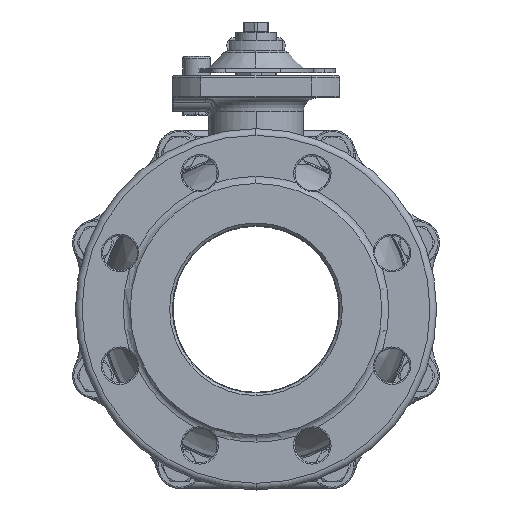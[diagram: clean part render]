
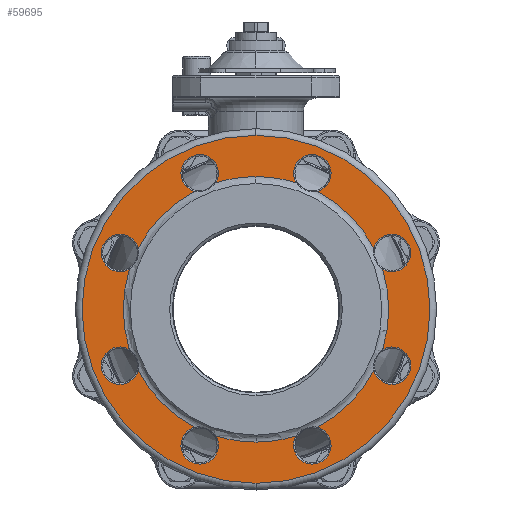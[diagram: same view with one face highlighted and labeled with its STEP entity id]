
A CAD part, left-side view. The second image highlights one B-rep face of the part: STEP entity #59695.
In plain terms, the highlighted planar face has unit normal (-1, 0, 0).
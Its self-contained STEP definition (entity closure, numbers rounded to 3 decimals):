
#57=CARTESIAN_POINT('',(-122.,0.,0.));
#58=DIRECTION('',(1.,0.,0.));
#59=DIRECTION('',(0.,0.953,-0.303));
#60=AXIS2_PLACEMENT_3D('',#57,#58,#59);
#62=CARTESIAN_POINT('',(-122.,0.,0.));
#63=DIRECTION('',(1.,0.,0.));
#64=DIRECTION('',(0.,0.46,-0.888));
#65=AXIS2_PLACEMENT_3D('',#62,#63,#64);
#67=CARTESIAN_POINT('',(-122.,0.,0.));
#68=DIRECTION('',(1.,0.,0.));
#69=DIRECTION('',(0.,0.,-1.));
#70=AXIS2_PLACEMENT_3D('',#67,#68,#69);
#72=CARTESIAN_POINT('',(-122.,0.,0.));
#73=DIRECTION('',(-1.,0.,0.));
#74=DIRECTION('',(0.,0.,-1.));
#75=AXIS2_PLACEMENT_3D('',#72,#73,#74);
#77=CARTESIAN_POINT('',(-122.,0.,0.));
#78=DIRECTION('',(-1.,0.,0.));
#79=DIRECTION('',(0.,-0.46,-0.888));
#80=AXIS2_PLACEMENT_3D('',#77,#78,#79);
#82=CARTESIAN_POINT('',(-122.,0.,0.));
#83=DIRECTION('',(-1.,0.,0.));
#84=DIRECTION('',(0.,-0.953,-0.303));
#85=AXIS2_PLACEMENT_3D('',#82,#83,#84);
#87=CARTESIAN_POINT('',(-122.,0.,0.));
#88=DIRECTION('',(-1.,0.,0.));
#89=DIRECTION('',(0.,-0.888,0.46));
#90=AXIS2_PLACEMENT_3D('',#87,#88,#89);
#92=CARTESIAN_POINT('',(-122.,0.,0.));
#93=DIRECTION('',(-1.,0.,0.));
#94=DIRECTION('',(0.,-0.303,0.953));
#95=AXIS2_PLACEMENT_3D('',#92,#93,#94);
#97=CARTESIAN_POINT('',(-122.,0.,0.));
#98=DIRECTION('',(1.,0.,0.));
#99=DIRECTION('',(0.,0.303,0.953));
#100=AXIS2_PLACEMENT_3D('',#97,#98,#99);
#102=CARTESIAN_POINT('',(-122.,0.,0.));
#103=DIRECTION('',(1.,0.,0.));
#104=DIRECTION('',(0.,0.888,0.46));
#105=AXIS2_PLACEMENT_3D('',#102,#103,#104);
#112=CARTESIAN_POINT('',(-122.,0.,0.));
#113=DIRECTION('',(1.,0.,0.));
#114=DIRECTION('',(0.,0.,-1.));
#115=AXIS2_PLACEMENT_3D('',#112,#113,#114);
#135=CARTESIAN_POINT('',(-122.,0.,0.));
#136=DIRECTION('',(1.,0.,0.));
#137=DIRECTION('',(0.,0.,1.));
#138=AXIS2_PLACEMENT_3D('',#135,#136,#137);
#47977=CARTESIAN_POINT('',(-122.,101.627,42.095));
#47978=DIRECTION('',(1.,0.,0.));
#47979=DIRECTION('',(0.,-0.506,-0.863));
#47980=AXIS2_PLACEMENT_3D('',#47977,#47978,#47979);
#48136=CARTESIAN_POINT('',(-122.,42.095,101.627));
#48137=DIRECTION('',(1.,0.,0.));
#48138=DIRECTION('',(0.,0.252,-0.968));
#48139=AXIS2_PLACEMENT_3D('',#48136,#48137,#48138);
#48285=CARTESIAN_POINT('',(-122.,-42.095,101.627));
#48286=DIRECTION('',(1.,0.,0.));
#48287=DIRECTION('',(0.,0.863,-0.506));
#48288=AXIS2_PLACEMENT_3D('',#48285,#48286,#48287);
#48434=CARTESIAN_POINT('',(-122.,-101.627,42.095));
#48435=DIRECTION('',(1.,0.,0.));
#48436=DIRECTION('',(0.,0.968,0.252));
#48437=AXIS2_PLACEMENT_3D('',#48434,#48435,#48436);
#48593=CARTESIAN_POINT('',(-122.,-101.627,-42.095));
#48594=DIRECTION('',(1.,0.,0.));
#48595=DIRECTION('',(0.,0.506,0.863));
#48596=AXIS2_PLACEMENT_3D('',#48593,#48594,#48595);
#48756=CARTESIAN_POINT('',(-122.,-42.095,-101.627));
#48757=DIRECTION('',(1.,0.,0.));
#48758=DIRECTION('',(0.,-0.252,0.968));
#48759=AXIS2_PLACEMENT_3D('',#48756,#48757,#48758);
#48905=CARTESIAN_POINT('',(-122.,42.095,-101.627));
#48906=DIRECTION('',(1.,0.,0.));
#48907=DIRECTION('',(0.,-0.863,0.506));
#48908=AXIS2_PLACEMENT_3D('',#48905,#48906,#48907);
#49050=CARTESIAN_POINT('',(-122.,101.627,-42.095));
#49051=DIRECTION('',(1.,0.,0.));
#49052=DIRECTION('',(0.,-0.968,-0.252));
#49053=AXIS2_PLACEMENT_3D('',#49050,#49051,#49052);
#49941=CARTESIAN_POINT('',(-122.,0.,-130.));
#49942=CARTESIAN_POINT('',(-122.,0.,130.));
#49943=VERTEX_POINT('',#49941);
#49944=VERTEX_POINT('',#49942);
#50081=CARTESIAN_POINT('',(-122.,94.545,30.018));
#50082=VERTEX_POINT('',#50081);
#50083=CARTESIAN_POINT('',(-122.,45.627,88.08));
#50084=VERTEX_POINT('',#50083);
#50085=CARTESIAN_POINT('',(-122.,-30.018,94.545));
#50086=VERTEX_POINT('',#50085);
#50087=CARTESIAN_POINT('',(-122.,-88.08,45.627));
#50088=VERTEX_POINT('',#50087);
#50089=CARTESIAN_POINT('',(-122.,-94.545,-30.018));
#50090=VERTEX_POINT('',#50089);
#50091=CARTESIAN_POINT('',(-122.,-45.627,-88.08));
#50092=VERTEX_POINT('',#50091);
#50093=CARTESIAN_POINT('',(-122.,30.018,-94.545));
#50094=VERTEX_POINT('',#50093);
#50095=CARTESIAN_POINT('',(-122.,88.08,-45.627));
#50096=VERTEX_POINT('',#50095);
#50097=CARTESIAN_POINT('',(-122.,88.08,45.627));
#50098=VERTEX_POINT('',#50097);
#50099=CARTESIAN_POINT('',(-122.,30.018,94.545));
#50100=VERTEX_POINT('',#50099);
#50101=CARTESIAN_POINT('',(-122.,-45.627,88.08));
#50102=VERTEX_POINT('',#50101);
#50103=CARTESIAN_POINT('',(-122.,-94.545,30.018));
#50104=VERTEX_POINT('',#50103);
#50105=CARTESIAN_POINT('',(-122.,-88.08,-45.627));
#50106=VERTEX_POINT('',#50105);
#50107=CARTESIAN_POINT('',(-122.,-30.018,-94.545));
#50108=VERTEX_POINT('',#50107);
#50109=CARTESIAN_POINT('',(-122.,45.627,-88.08));
#50110=VERTEX_POINT('',#50109);
#50111=CARTESIAN_POINT('',(-122.,94.545,-30.018));
#50112=VERTEX_POINT('',#50111);
#51017=CARTESIAN_POINT('',(-122.,0.,99.196));
#51018=VERTEX_POINT('',#51017);
#51019=CARTESIAN_POINT('',(-122.,0.,-99.196));
#51020=VERTEX_POINT('',#51019);
#59656=CARTESIAN_POINT('',(-122.,0.,0.));
#59657=DIRECTION('',(-1.,0.,0.));
#59658=DIRECTION('',(0.,0.,1.));
#59659=AXIS2_PLACEMENT_3D('',#59656,#59657,#59658);
#59660=PLANE('',#59659);
#59662=ORIENTED_EDGE('',*,*,#59661,.T.);
#59664=ORIENTED_EDGE('',*,*,#59663,.T.);
#59665=EDGE_LOOP('',(#59662,#59664));
#59666=FACE_OUTER_BOUND('',#59665,.F.);
#59668=ORIENTED_EDGE('',*,*,#59667,.F.);
#59669=ORIENTED_EDGE('',*,*,#59640,.F.);
#59671=ORIENTED_EDGE('',*,*,#59670,.F.);
#59672=ORIENTED_EDGE('',*,*,#59634,.F.);
#59674=ORIENTED_EDGE('',*,*,#59673,.F.);
#59675=ORIENTED_EDGE('',*,*,#59630,.F.);
#59676=ORIENTED_EDGE('',*,*,#59616,.T.);
#59678=ORIENTED_EDGE('',*,*,#59677,.F.);
#59679=ORIENTED_EDGE('',*,*,#59612,.T.);
#59681=ORIENTED_EDGE('',*,*,#59680,.F.);
#59682=ORIENTED_EDGE('',*,*,#59606,.T.);
#59684=ORIENTED_EDGE('',*,*,#59683,.F.);
#59685=ORIENTED_EDGE('',*,*,#59600,.T.);
#59687=ORIENTED_EDGE('',*,*,#59686,.F.);
#59688=ORIENTED_EDGE('',*,*,#59596,.T.);
#59689=ORIENTED_EDGE('',*,*,#59650,.F.);
#59691=ORIENTED_EDGE('',*,*,#59690,.F.);
#59692=ORIENTED_EDGE('',*,*,#59646,.F.);
#59693=EDGE_LOOP('',(#59668,#59669,#59671,#59672,#59674,#59675,#59676,#59678,
#59679,#59681,#59682,#59684,#59685,#59687,#59688,#59689,#59691,#59692));
#59694=FACE_BOUND('',#59693,.F.);
#59695=ADVANCED_FACE('',(#59666,#59694),#59660,.T.);
#61=CIRCLE('',#60,99.196);
#66=CIRCLE('',#65,99.196);
#71=CIRCLE('',#70,99.196);
#76=CIRCLE('',#75,99.196);
#81=CIRCLE('',#80,99.196);
#86=CIRCLE('',#85,99.196);
#91=CIRCLE('',#90,99.196);
#96=CIRCLE('',#95,99.196);
#101=CIRCLE('',#100,99.196);
#106=CIRCLE('',#105,99.196);
#116=CIRCLE('',#115,130.);
#139=CIRCLE('',#138,130.);
#47981=CIRCLE('',#47980,14.);
#48140=CIRCLE('',#48139,14.);
#48289=CIRCLE('',#48288,14.);
#48438=CIRCLE('',#48437,14.);
#48597=CIRCLE('',#48596,14.);
#48760=CIRCLE('',#48759,14.);
#48909=CIRCLE('',#48908,14.);
#49054=CIRCLE('',#49053,14.);
#59596=EDGE_CURVE('',#50086,#51018,#96,.T.);
#59600=EDGE_CURVE('',#50088,#50102,#91,.T.);
#59606=EDGE_CURVE('',#50090,#50104,#86,.T.);
#59612=EDGE_CURVE('',#50092,#50106,#81,.T.);
#59616=EDGE_CURVE('',#51020,#50108,#76,.T.);
#59630=EDGE_CURVE('',#51020,#50094,#71,.T.);
#59634=EDGE_CURVE('',#50110,#50096,#66,.T.);
#59640=EDGE_CURVE('',#50112,#50082,#61,.T.);
#59646=EDGE_CURVE('',#50098,#50084,#106,.T.);
#59650=EDGE_CURVE('',#50100,#51018,#101,.T.);
#59661=EDGE_CURVE('',#49943,#49944,#116,.T.);
#59663=EDGE_CURVE('',#49944,#49943,#139,.T.);
#59667=EDGE_CURVE('',#50082,#50098,#47981,.T.);
#59670=EDGE_CURVE('',#50096,#50112,#49054,.T.);
#59673=EDGE_CURVE('',#50094,#50110,#48909,.T.);
#59677=EDGE_CURVE('',#50092,#50108,#48760,.T.);
#59680=EDGE_CURVE('',#50090,#50106,#48597,.T.);
#59683=EDGE_CURVE('',#50088,#50104,#48438,.T.);
#59686=EDGE_CURVE('',#50086,#50102,#48289,.T.);
#59690=EDGE_CURVE('',#50084,#50100,#48140,.T.);
